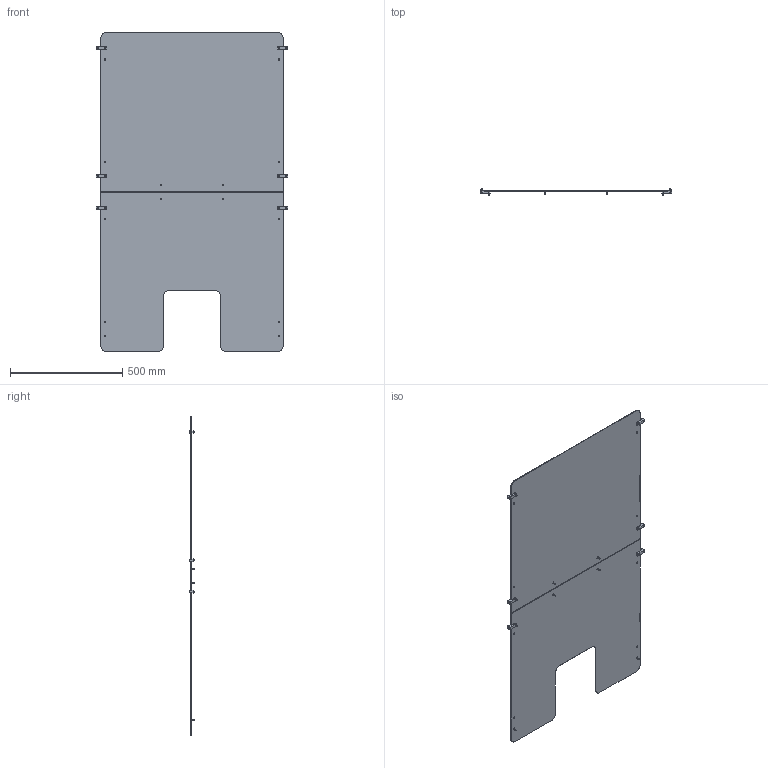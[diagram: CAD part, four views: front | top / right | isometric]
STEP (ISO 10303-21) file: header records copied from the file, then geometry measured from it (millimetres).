
FILE_DESCRIPTION (( 'STEP AP203' ), '1' );
FILE_NAME ('5012185 - VERSACART 1300 CUSTOM INFEED READY KIT.STEP', '2024-12-11T18:03:12', ( '' ), ( '' ), 'SwSTEP 2.0', 'SolidWorks 2019', '' );
FILE_SCHEMA (( 'CONFIG_CONTROL_DESIGN' ));
Length unit declared in the file: inch
Products named in the file (12): 5012716_Default Configuration; M4x0.7 FHCS_FHCS M4x0.7x16; M5X0.80 BHCS_BHCS M5x0.8 x 12mm; 5012717_WITHOUT 5TH AXIS RAIL BOLTS; 5012185 - VERSACART 1300 CUSTOM INFEED READY KIT; 5012185_Default Configuration; M4x0.7 FHCS_FHCS M4x0.7x20; 5010643_Default Configuration; 5012087_Default Configuration; 5010649_INFEED REMOVED BRACKETS STILL IN PLACE; 5012715_Default Configuration; M4x0.7 HEX NUT_M4 x 0.7 HEX NUT
Assembly tree (35 placements, depth 4):
  5012185 - VERSACART 1300 CUSTOM INFEED READY KIT
    5012185_Default Configuration
      5012717_WITHOUT 5TH AXIS RAIL BOLTS
        5012715_Default Configuration
        5012716_Default Configuration
        M4x0.7 FHCS_FHCS M4x0.7x16  x6
      5010649_INFEED REMOVED BRACKETS STILL IN PLACE
        5010643_Default Configuration  x6
        M4x0.7 FHCS_FHCS M4x0.7x20  x6
        M4x0.7 HEX NUT_M4 x 0.7 HEX NUT  x6
        M5X0.80 BHCS_BHCS M5x0.8 x 12mm  x6
  5012087_Default Configuration
Bounding box: 850.9 x 26.37 x 1422.4 mm (x, y, z)
Volume: 3474292.3 mm3; surface area: 2210916.9 mm2
Topology: 32 solids, 32 shells, 728 faces, 1692 edges, 1034 vertices
Faces by surface type: plane 280, cone 216, cylinder 208, torus 12, sphere 12
Entity records: 8009 total; most frequent: DIRECTION 1146, CARTESIAN_POINT 1118, ORIENTED_EDGE 952, EDGE_CURVE 476, AXIS2_PLACEMENT_3D 455, VERTEX_POINT 299, EDGE_LOOP 251, VECTOR 236
